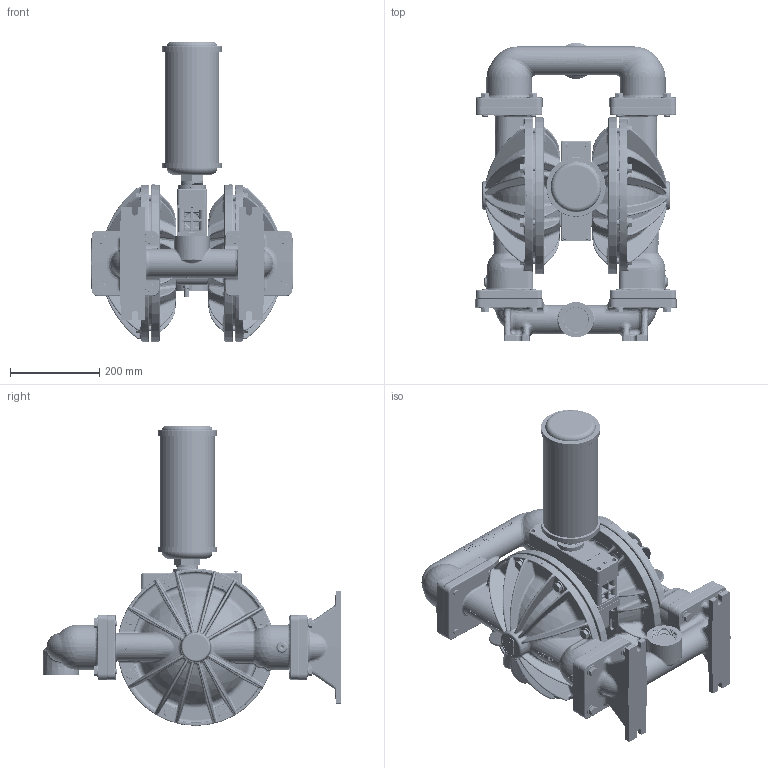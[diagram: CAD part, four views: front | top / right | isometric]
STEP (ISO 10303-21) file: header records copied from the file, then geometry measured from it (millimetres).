
FILE_DESCRIPTION (( 'STEP AP203' ), '1' );
FILE_NAME ('PS820_ADV_ALUMINUM.STEP', '2022-06-14T08:12:53', ( '' ), ( '' ), 'SwSTEP 2.0', 'SolidWorks 2019', '' );
FILE_SCHEMA (( 'CONFIG_CONTROL_DESIGN' ));
Length unit declared in the file: inch
Products named in the file (1): PS820_ADV_ALUMINUM
Bounding box: 453.45 x 670.36 x 674.71 mm (x, y, z)
Volume: 30947249.6 mm3; surface area: 1891558.3 mm2
Topology: 1 solids, 1 shells, 9304 faces, 23448 edges, 14530 vertices
Faces by surface type: plane 4573, bspline 2047, cylinder 1203, cone 640, torus 587, sphere 254
Entity records: 780709 total; most frequent: CARTESIAN_POINT 574652, ORIENTED_EDGE 46828, DIRECTION 37307, EDGE_CURVE 23414, VERTEX_POINT 14518, AXIS2_PLACEMENT_3D 13008, VECTOR 11291, LINE 11291
